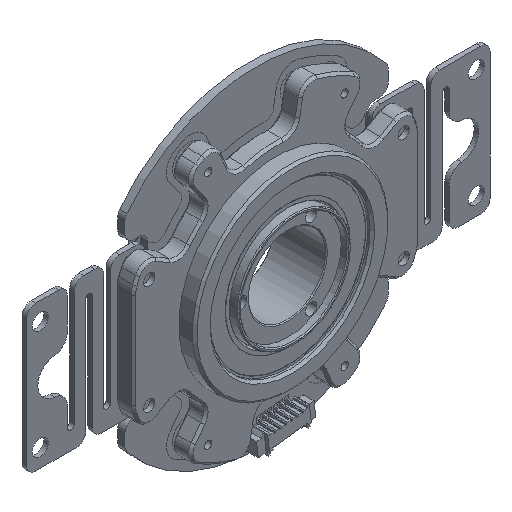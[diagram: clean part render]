
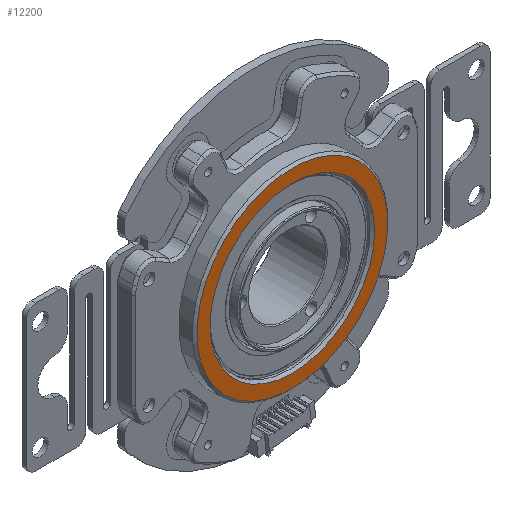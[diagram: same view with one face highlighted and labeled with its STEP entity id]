
A CAD part, isometric view. The second image highlights one B-rep face of the part: STEP entity #12200.
In plain terms, the highlighted planar face has unit normal (0, -1, 0).
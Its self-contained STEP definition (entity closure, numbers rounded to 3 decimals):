
#12200=ADVANCED_FACE('',(#15815,#15816),#14068,.T.);
#14068=PLANE('',#40594);
#15815=FACE_BOUND('',#16792,.T.);
#15816=FACE_BOUND('',#16793,.T.);
#16792=EDGE_LOOP('',(#20998));
#16793=EDGE_LOOP('',(#20999));
#20998=ORIENTED_EDGE('',*,*,#35008,.T.);
#20999=ORIENTED_EDGE('',*,*,#35010,.T.);
#31098=VERTEX_POINT('',#56575);
#31100=VERTEX_POINT('',#56581);
#35008=EDGE_CURVE('',#31098,#31098,#39352,.T.);
#35010=EDGE_CURVE('',#31100,#31100,#39354,.T.);
#39352=CIRCLE('',#40589,18.1);
#39354=CIRCLE('',#40593,21.);
#40589=AXIS2_PLACEMENT_3D('',#56574,#45525,#45526);
#40593=AXIS2_PLACEMENT_3D('',#56580,#45533,#45534);
#40594=AXIS2_PLACEMENT_3D('',#56582,#45535,#45536);
#45525=DIRECTION('',(0.,1.,0.));
#45526=DIRECTION('',(0.,0.,1.));
#45533=DIRECTION('',(0.,-1.,0.));
#45534=DIRECTION('',(0.707,0.,-0.707));
#45535=DIRECTION('',(0.,-1.,0.));
#45536=DIRECTION('',(-0.707,0.,0.707));
#56574=CARTESIAN_POINT('',(0.,-7.5,0.));
#56575=CARTESIAN_POINT('',(0.,-7.5,18.1));
#56580=CARTESIAN_POINT('',(0.,-7.5,0.));
#56581=CARTESIAN_POINT('',(14.849,-7.5,-14.849));
#56582=CARTESIAN_POINT('',(0.,-7.5,0.));
